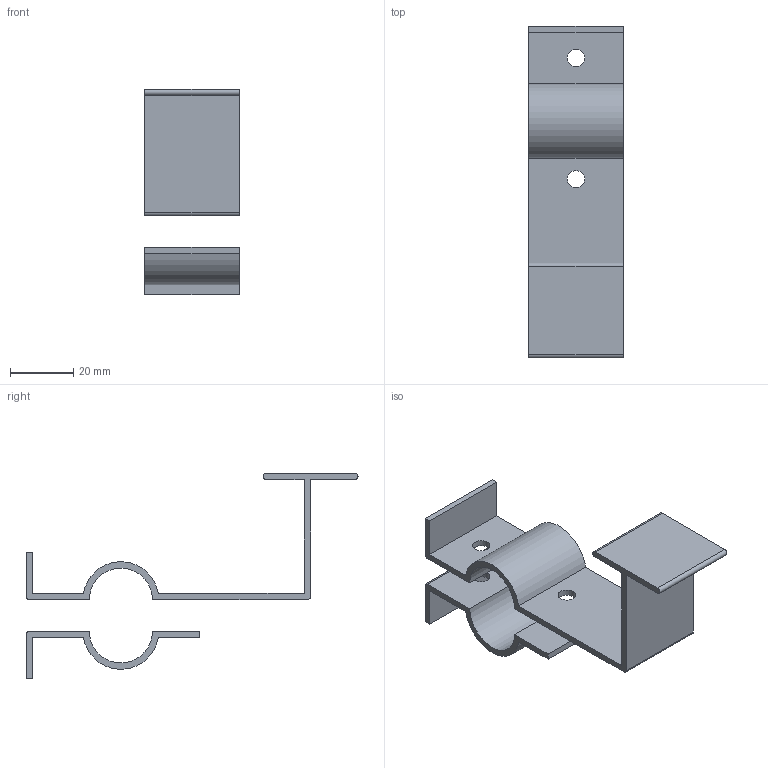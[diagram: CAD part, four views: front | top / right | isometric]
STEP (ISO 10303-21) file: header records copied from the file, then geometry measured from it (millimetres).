
FILE_DESCRIPTION(/* description */ (''),/* implementation_level */ '2;1');
FILE_NAME(/* name */ 'oven_handle v2.step',/* time_stamp */ '2026-04-10T14:24:14+02:00',/* author */ (''),/* organization */ (''),/* preprocessor_version */ 'ST-DEVELOPER v20.1',/* originating_system */ 'Autodesk Translation Framework v14.24.0.0',/* authorisation */ '');
FILE_SCHEMA (('AUTOMOTIVE_DESIGN { 1 0 10303 214 3 1 1 }'));
Length unit declared in the file: millimetre
Products named in the file (1): (Niezapisany)
Bounding box: 30 x 105 x 65 mm (x, y, z)
Volume: 15265.2 mm3; surface area: 16634.3 mm2
Topology: 2 solids, 2 shells, 37 faces, 99 edges, 66 vertices
Faces by surface type: plane 24, cylinder 13
Full cylindrical faces by diameter (mm): 5.5 x4
Entity records: 1207 total; most frequent: CARTESIAN_POINT 203, DIRECTION 201, ORIENTED_EDGE 198, EDGE_CURVE 99, LINE 73, VECTOR 73, VERTEX_POINT 66, AXIS2_PLACEMENT_3D 64
